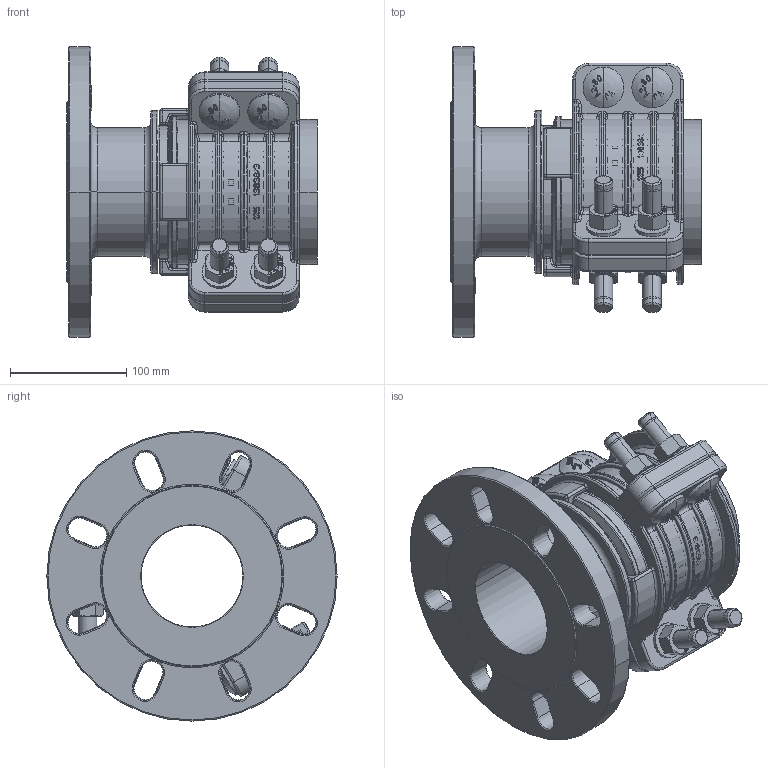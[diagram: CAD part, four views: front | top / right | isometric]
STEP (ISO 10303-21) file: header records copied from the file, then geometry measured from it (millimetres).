
FILE_DESCRIPTION((''),'2;1');
FILE_NAME('13643_8_ASM','2023-08-31T09:28:59',('catrombini'),(''),'CREO PARAMETRIC BY PTC INC, 2020454','CREO PARAMETRIC BY PTC INC, 2020454','');
FILE_SCHEMA(('CONFIG_CONTROL_DESIGN'));
Products named in the file (8): 13636_MACHINED_10; 13638_3; 12568_7; 10467_4; 10493_6; 7896_10; PE_125_SDR17; 13643_8_ASM
Assembly tree (29 placements, depth 2):
  13643_8_ASM
    13636_MACHINED_10
    13638_3  x3
    12568_7  x6
    10467_4  x6
    10493_6  x6
    7896_10  x6
    PE_125_SDR17
Bounding box: 215.34 x 250 x 250 mm (x, y, z)
Volume: 2442818.2 mm3; surface area: 666798.8 mm2
Topology: 29 solids, 47 shells, 6010 faces, 16226 edges, 10470 vertices
Faces by surface type: plane 4466, cylinder 580, torus 391, bspline 236, cone 217, sphere 120
Entity records: 82920 total; most frequent: CARTESIAN_POINT 20537, ORIENTED_EDGE 13500, DIRECTION 12179, EDGE_CURVE 6758, VECTOR 4645, LINE 4645, VERTEX_POINT 4365, AXIS2_PLACEMENT_3D 3767
